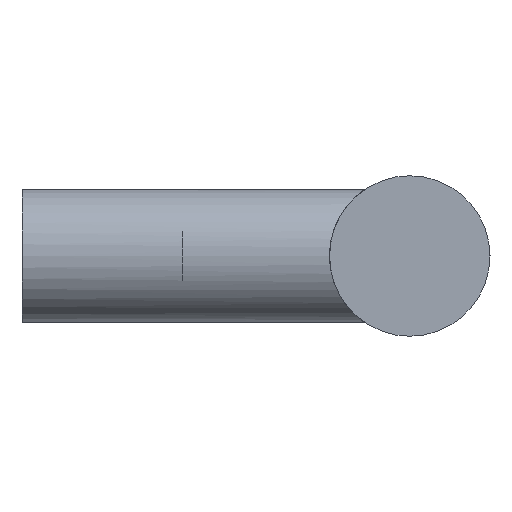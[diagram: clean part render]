
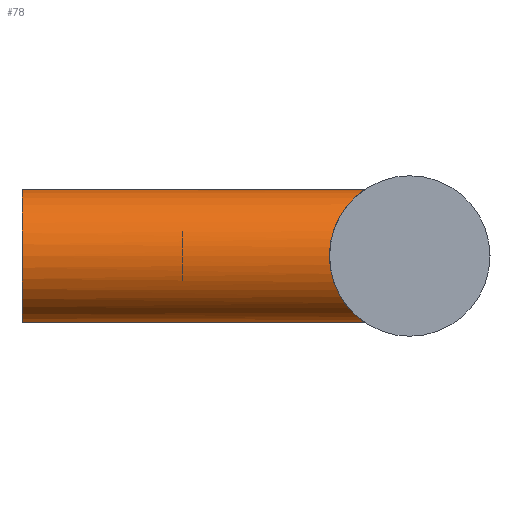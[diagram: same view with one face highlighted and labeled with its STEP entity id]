
A CAD part, left-side view. The second image highlights one B-rep face of the part: STEP entity #78.
In plain terms, the highlighted cylindrical face has radius 5 mm (diameter 10 mm), a partial arc.
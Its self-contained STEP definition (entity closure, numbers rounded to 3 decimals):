
#78 = ADVANCED_FACE( '', ( #100 ), #101, .T. );
#100 = FACE_OUTER_BOUND( '', #136, .T. );
#101 = CYLINDRICAL_SURFACE( '', #137, 5. );
#136 = EDGE_LOOP( '', ( #189, #190, #191, #192 ) );
#137 = AXIS2_PLACEMENT_3D( '', #193, #194, #195 );
#189 = ORIENTED_EDGE( '', *, *, #287, .F. );
#190 = ORIENTED_EDGE( '', *, *, #288, .T. );
#191 = ORIENTED_EDGE( '', *, *, #289, .F. );
#192 = ORIENTED_EDGE( '', *, *, #279, .F. );
#193 = CARTESIAN_POINT( '', ( 0., -12.842, 0. ) );
#194 = DIRECTION( '', ( 0., 1., 0. ) );
#195 = DIRECTION( '', ( 0., 0., 1. ) );
#279 = EDGE_CURVE( '', #315, #314, #317, .T. );
#287 = EDGE_CURVE( '', #331, #315, #332, .T. );
#288 = EDGE_CURVE( '', #331, #333, #334, .T. );
#289 = EDGE_CURVE( '', #314, #333, #335, .T. );
#314 = VERTEX_POINT( '', #432 );
#315 = VERTEX_POINT( '', #433 );
#317 = B_SPLINE_CURVE_WITH_KNOTS( '', 3, ( #468, #469, #470, #471, #472, #473, #474, #475, #476, #477, #478, #479, #480, #481, #482, #483, #484, #485, #486, #487, #488, #489, #490, #491, #492, #493, #494, #495, #496, #497, #498, #499, #500, #501 ), .UNSPECIFIED., .F., .F., ( 4, 2, 2, 2, 2, 2, 2, 2, 2, 2, 2, 2, 2, 2, 2, 2, 4 ), ( 16.322, 17.363, 18.404, 19.446, 20.487, 21.486, 22.485, 23.484, 24.483, 25.482, 26.481, 27.479, 28.478, 29.52, 30.561, 31.602, 32.643 ), .UNSPECIFIED. );
#331 = VERTEX_POINT( '', #519 );
#332 = LINE( '', #520, #521 );
#333 = VERTEX_POINT( '', #522 );
#334 = CIRCLE( '', #523, 5. );
#335 = LINE( '', #524, #525 );
#432 = CARTESIAN_POINT( '', ( 0., -25.683, -5. ) );
#433 = CARTESIAN_POINT( '', ( 0., -25.683, 5. ) );
#468 = CARTESIAN_POINT( '', ( 0., -25.683, 5. ) );
#469 = CARTESIAN_POINT( '', ( -0.347, -25.683, 5. ) );
#470 = CARTESIAN_POINT( '', ( -0.687, -25.627, 4.964 ) );
#471 = CARTESIAN_POINT( '', ( -1.343, -25.436, 4.828 ) );
#472 = CARTESIAN_POINT( '', ( -1.659, -25.301, 4.728 ) );
#473 = CARTESIAN_POINT( '', ( -2.259, -24.995, 4.472 ) );
#474 = CARTESIAN_POINT( '', ( -2.544, -24.825, 4.316 ) );
#475 = CARTESIAN_POINT( '', ( -3.073, -24.483, 3.957 ) );
#476 = CARTESIAN_POINT( '', ( -3.317, -24.311, 3.754 ) );
#477 = CARTESIAN_POINT( '', ( -3.745, -24., 3.326 ) );
#478 = CARTESIAN_POINT( '', ( -3.946, -23.847, 3.088 ) );
#479 = CARTESIAN_POINT( '', ( -4.306, -23.566, 2.561 ) );
#480 = CARTESIAN_POINT( '', ( -4.467, -23.437, 2.272 ) );
#481 = CARTESIAN_POINT( '', ( -4.728, -23.225, 1.659 ) );
#482 = CARTESIAN_POINT( '', ( -4.83, -23.141, 1.335 ) );
#483 = CARTESIAN_POINT( '', ( -4.966, -23.028, 0.672 ) );
#484 = CARTESIAN_POINT( '', ( -5., -23., 0.333 ) );
#485 = CARTESIAN_POINT( '', ( -5., -23., -0.333 ) );
#486 = CARTESIAN_POINT( '', ( -4.966, -23.028, -0.672 ) );
#487 = CARTESIAN_POINT( '', ( -4.83, -23.141, -1.335 ) );
#488 = CARTESIAN_POINT( '', ( -4.728, -23.225, -1.659 ) );
#489 = CARTESIAN_POINT( '', ( -4.467, -23.437, -2.272 ) );
#490 = CARTESIAN_POINT( '', ( -4.306, -23.566, -2.561 ) );
#491 = CARTESIAN_POINT( '', ( -3.946, -23.847, -3.088 ) );
#492 = CARTESIAN_POINT( '', ( -3.745, -24., -3.326 ) );
#493 = CARTESIAN_POINT( '', ( -3.317, -24.311, -3.754 ) );
#494 = CARTESIAN_POINT( '', ( -3.073, -24.483, -3.957 ) );
#495 = CARTESIAN_POINT( '', ( -2.544, -24.825, -4.316 ) );
#496 = CARTESIAN_POINT( '', ( -2.259, -24.995, -4.472 ) );
#497 = CARTESIAN_POINT( '', ( -1.659, -25.301, -4.728 ) );
#498 = CARTESIAN_POINT( '', ( -1.343, -25.436, -4.828 ) );
#499 = CARTESIAN_POINT( '', ( -0.687, -25.627, -4.964 ) );
#500 = CARTESIAN_POINT( '', ( -0.347, -25.683, -5. ) );
#501 = CARTESIAN_POINT( '', ( 0., -25.683, -5. ) );
#519 = CARTESIAN_POINT( '', ( 0., 0., 5. ) );
#520 = CARTESIAN_POINT( '', ( 0., -12.842, 5. ) );
#521 = VECTOR( '', #565, 1. );
#522 = CARTESIAN_POINT( '', ( 0., 0., -5. ) );
#523 = AXIS2_PLACEMENT_3D( '', #566, #567, #568 );
#524 = CARTESIAN_POINT( '', ( 0., -12.842, -5. ) );
#525 = VECTOR( '', #569, 1. );
#565 = DIRECTION( '', ( 0., -1., 0. ) );
#566 = CARTESIAN_POINT( '', ( 0., 0., 0. ) );
#567 = DIRECTION( '', ( 0., -1., 0. ) );
#568 = DIRECTION( '', ( 0., 0., 1. ) );
#569 = DIRECTION( '', ( 0., 1., 0. ) );
